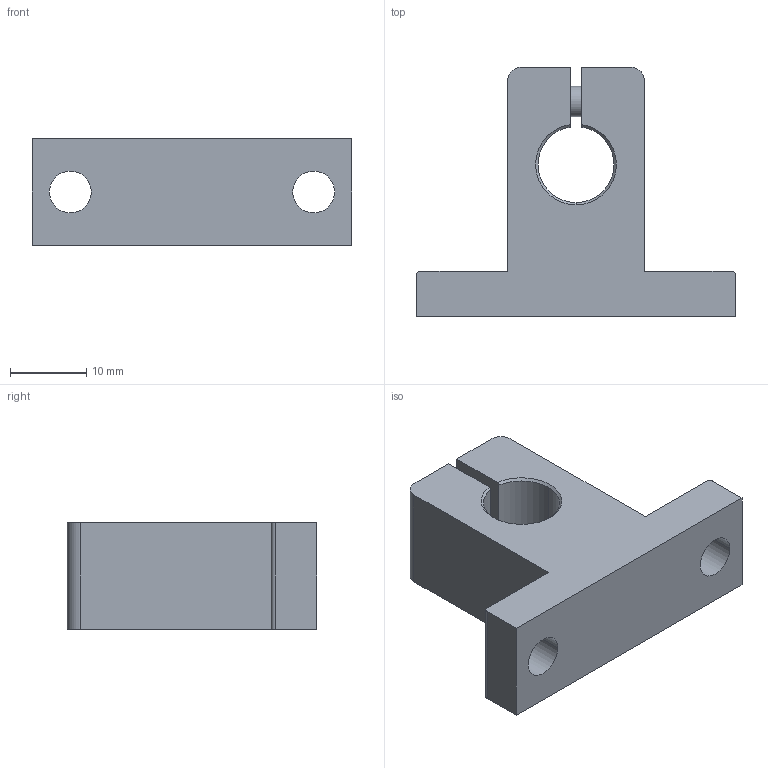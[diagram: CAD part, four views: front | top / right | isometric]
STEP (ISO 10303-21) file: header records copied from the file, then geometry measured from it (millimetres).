
FILE_DESCRIPTION(('FreeCAD Model'),'2;1');
FILE_NAME('Open CASCADE Shape Model','2021-05-04T13:06:20',('Author'),( ''),'Open CASCADE STEP processor 7.5','FreeCAD','Unknown');
FILE_SCHEMA(('AUTOMOTIVE_DESIGN { 1 0 10303 214 1 1 1 1 }'));
Length unit declared in the file: millimetre
Products named in the file (1): support_sk10
Bounding box: 42 x 32.8 x 14 mm (x, y, z)
Volume: 8639.6 mm3; surface area: 4280.7 mm2
Topology: 1 solids, 1 shells, 45 faces, 124 edges, 83 vertices
Faces by surface type: plane 22, cylinder 17, cone 4, torus 2
Entity records: 3359 total; most frequent: CARTESIAN_POINT 870, DIRECTION 473, LINE 275, VECTOR 275, ORIENTED_EDGE 248, PCURVE 248, DEFINITIONAL_REPRESENTATION 248, EDGE_CURVE 124
